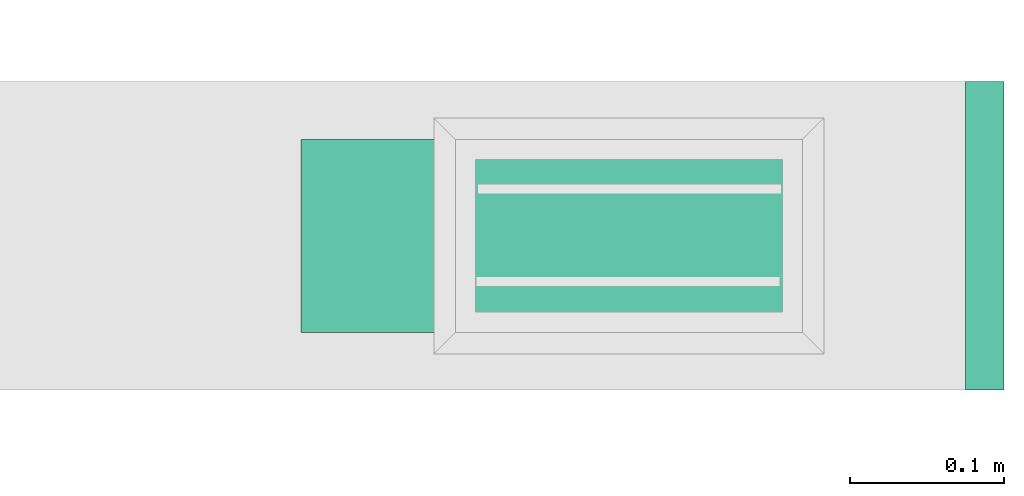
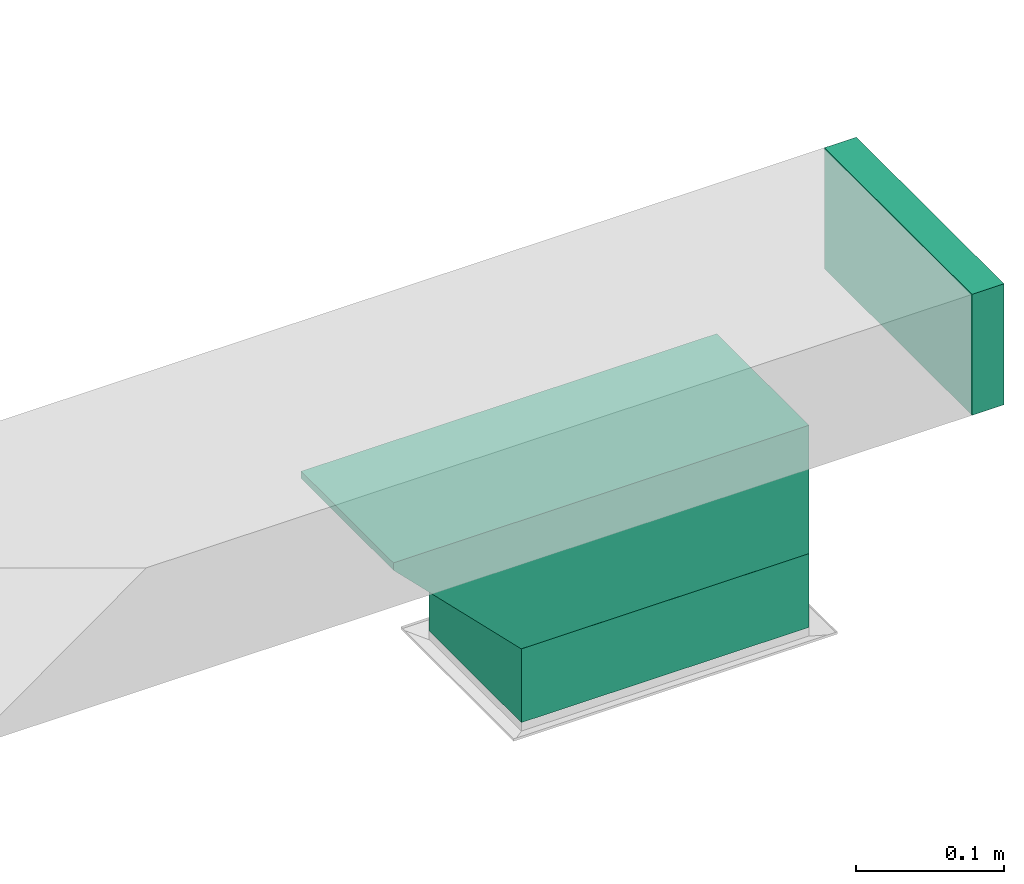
# One storey, part 9 of 15: 2 flow fittings, 1 flow segment.
"""IFC2X3 building model written with IfcOpenShell, lengths in millimetres."""

from ifc_helpers import new_model, entity, si_unit, converted_unit, derived_unit, direction, frame, frame_2d, origin, place, context, subcontext, project, spatial, polyline, rectangle, outline, extrude, source, transform, mapped, material, type_object, type_shapes, element, save


model = new_model("IFC2X3")

# Units and contexts
model_context = context("Model", 3, precision=0.01, world=origin(), true_north=direction((6.123233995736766e-17, 1.0)))
body_context = subcontext(model_context, "Body", "Model", "MODEL_VIEW")
ifc_project = project(units=[si_unit("LENGTHUNIT", "METRE", prefix="MILLI"), converted_unit("PLANEANGLEUNIT", "DEGREE", entity("IfcPlaneAngleMeasure", 0.017453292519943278), si_unit("PLANEANGLEUNIT", "RADIAN"), dimensions=[0, 0, 0, 0, 0, 0, 0]), si_unit("AREAUNIT", "SQUARE_METRE"), derived_unit("THERMALTRANSMITTANCEUNIT", [(si_unit("MASSUNIT", "GRAM", prefix="KILO"), 1), (si_unit("THERMODYNAMICTEMPERATUREUNIT", "KELVIN"), -1), (si_unit("TIMEUNIT", "SECOND"), -3)])], contexts=[model_context])

# Site, building, storey
site_placement = place(None, origin())
site = spatial("IfcSite", under=ifc_project, at=site_placement, Name="Default", CompositionType="ELEMENT")
building_placement = place(site_placement, origin())
building = spatial("IfcBuilding", under=site, at=building_placement, Name="Praça Pedro II, 1301 - Centro (Sul), Teresina - PI, 64001-100", CompositionType="ELEMENT")
storey_placement = place(building_placement, frame((0.0, 0.0, 3020.0)))
storey = spatial("IfcBuildingStorey", under=building, at=storey_placement, Name="1PAV", CompositionType="ELEMENT", Elevation=3020.0)

# Flow segment
duct_segment_type = type_object("IfcDuctSegmentType", Name="Duto retangular:Raios cotovelos / torneiras", PredefinedType="NOTDEFINED")
flow_segment_placement = place(storey_placement, origin())
element("IfcFlowSegment", 1, at=flow_segment_placement, inside=storey, type_object=duct_segment_type, Name="Duto retangular:Raios cotovelos / torneiras", ObjectType="Duto retangular:Raios cotovelos / torneiras", context=body_context, shape_type="SweptSolid", body=[
    extrude(rectangle(XDim=125.00000000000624, YDim=225.00000000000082, at=frame_2d((8.661515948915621e-12, 0.0), x_axis=(1.0, 0.0))), frame((39373.86435965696, -64901.478204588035, 2500.0), z_axis=(0.0, 0.0, 1.0), x_axis=(0.0, 1.0, 0.0)), (0.0, 0.0, 1.0), 61.00505063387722),
])

# Flow fittings
ifc_material = material(Name="<Unnamed>")
duct_fitting_type_1 = type_object("IfcDuctFittingType", Name="M_Tampa retangular:Padrão", PredefinedType="NOTDEFINED", material=ifc_material)
shared_shape_1 = source(origin(), body_context, "Body", "SweptSolid", [
    extrude(rectangle(XDim=24.999999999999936, YDim=200.00000000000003, at=frame_2d((-8.881784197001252e-16, 0.0), x_axis=(1.0, 0.0))), frame((12.500000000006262, 0.0, -50.0)), (0.0, 0.0, 1.0), 100.0),
])
type_shapes(duct_fitting_type_1, [shared_shape_1])
flow_fitting_1_placement = place(storey_placement, frame((39592.15622610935, -64901.478204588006, 2711.0050506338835)))
element("IfcFlowFitting", 2, at=flow_fitting_1_placement, inside=storey, type_object=duct_fitting_type_1, material=ifc_material, Name="M_Tampa retangular:Padrão", ObjectType="M_Tampa retangular:Padrão", context=body_context, shape_type="MappedRepresentation", body=[
    mapped(shared_shape_1, transform((0.0, 0.0, 0.0), scale=1.0)),
])
duct_fitting_type_2 = type_object("IfcDuctFittingType", Name="M_Rectangular Tap - Beveled:Standard", PredefinedType="NOTDEFINED", material=ifc_material)
shared_shape_2 = source(origin(), body_context, "Body", "SweptSolid", [
    extrude(outline(polyline([(-175.0, -62.43840000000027), (50.0, -62.43840000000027), (150.0, 37.561599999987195), (150.0, 43.65760000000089), (-175.0, 43.65759999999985), (-175.0, -62.43840000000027)])), frame((37.56160000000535, 62.50000000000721, -62.49999999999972), z_axis=(0.0, 0.0, 1.0), x_axis=(0.0, 1.0, 0.0)), (0.0, 0.0, 1.0), 124.99999999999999),
])
type_shapes(duct_fitting_type_2, [shared_shape_2])
flow_fitting_2_placement = place(storey_placement, frame((39373.86435965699, -64901.47820458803, 2661.0050506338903), z_axis=(0.0, 1.0, 0.0), x_axis=(0.0, 0.0, -1.0)))
element("IfcFlowFitting", 3, at=flow_fitting_2_placement, inside=storey, type_object=duct_fitting_type_2, material=ifc_material, Name="M_Rectangular Tap - Beveled:Standard", ObjectType="M_Rectangular Tap - Beveled:Standard", context=body_context, shape_type="MappedRepresentation", body=[
    mapped(shared_shape_2, transform((0.0, 0.0, 0.0), scale=1.0)),
])

save(model, "model.ifc")
